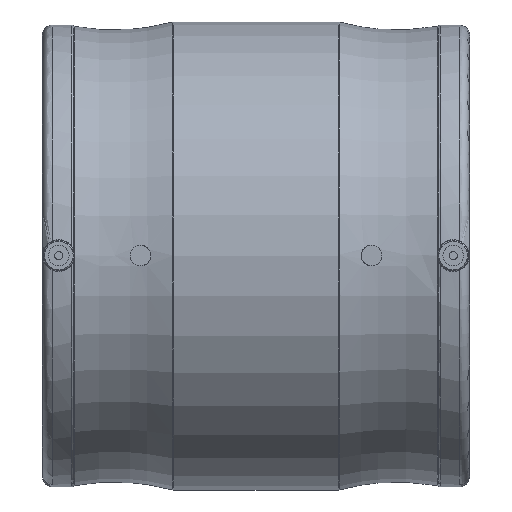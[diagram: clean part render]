
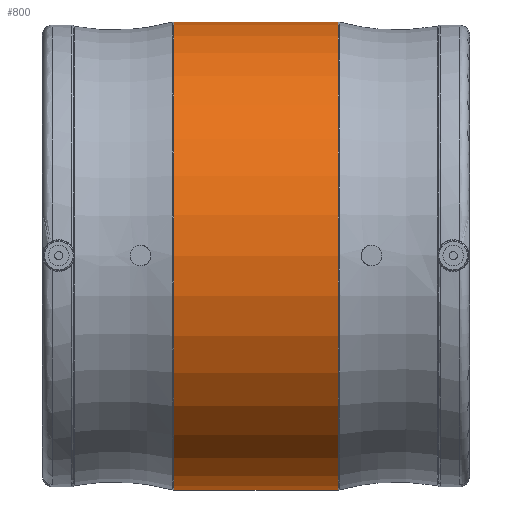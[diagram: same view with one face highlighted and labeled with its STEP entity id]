
A CAD part, top view. The second image highlights one B-rep face of the part: STEP entity #800.
In plain terms, the highlighted cylindrical face has radius 114.5 mm (diameter 229 mm), a full revolution.
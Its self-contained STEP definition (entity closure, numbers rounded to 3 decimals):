
#61=CYLINDRICAL_SURFACE('',#896,114.5);
#262=ORIENTED_EDGE('',*,*,#422,.T.);
#263=ORIENTED_EDGE('',*,*,#423,.T.);
#422=EDGE_CURVE('',#506,#506,#560,.F.);
#423=EDGE_CURVE('',#507,#507,#561,.T.);
#506=VERTEX_POINT('',#1449);
#507=VERTEX_POINT('',#1451);
#560=CIRCLE('',#897,114.5);
#561=CIRCLE('',#898,114.5);
#619=EDGE_LOOP('',(#262));
#620=EDGE_LOOP('',(#263));
#703=FACE_BOUND('',#619,.T.);
#704=FACE_BOUND('',#620,.T.);
#800=ADVANCED_FACE('',(#703,#704),#61,.T.);
#896=AXIS2_PLACEMENT_3D('',#1447,#1082,#1083);
#897=AXIS2_PLACEMENT_3D('',#1448,#1084,#1085);
#898=AXIS2_PLACEMENT_3D('',#1450,#1086,#1087);
#1082=DIRECTION('',(-1.,0.,0.));
#1083=DIRECTION('',(0.,0.,1.));
#1084=DIRECTION('',(1.,0.,0.));
#1085=DIRECTION('',(0.,0.,-1.));
#1086=DIRECTION('',(1.,0.,0.));
#1087=DIRECTION('',(0.,0.,-1.));
#1447=CARTESIAN_POINT('',(-60.,0.,0.));
#1448=CARTESIAN_POINT('',(40.367,0.,0.));
#1449=CARTESIAN_POINT('',(40.367,0.,-114.5));
#1450=CARTESIAN_POINT('',(-40.367,0.,0.));
#1451=CARTESIAN_POINT('',(-40.367,0.,-114.5));
